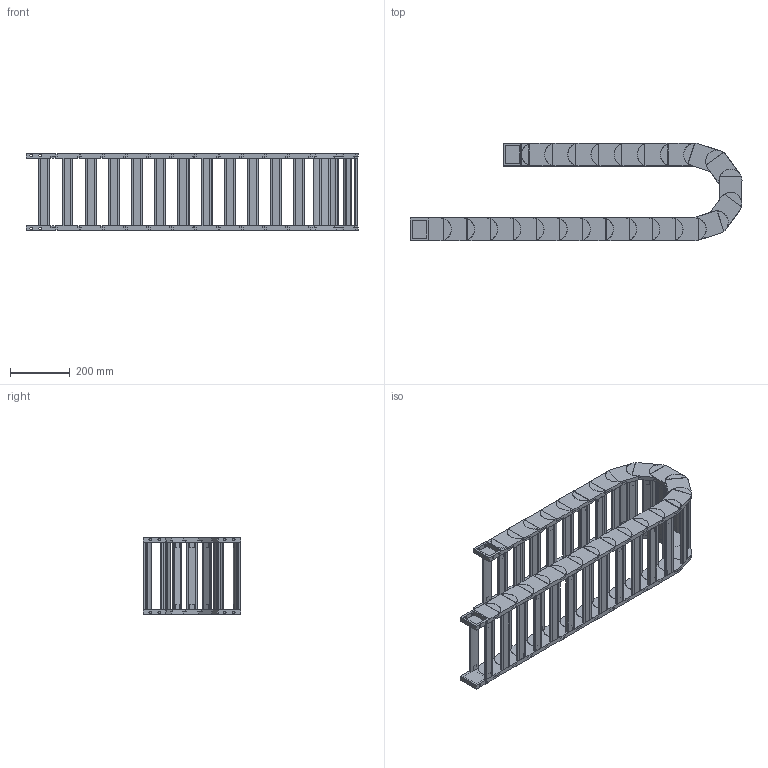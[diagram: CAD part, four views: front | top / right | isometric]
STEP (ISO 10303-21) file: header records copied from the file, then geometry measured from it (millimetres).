
FILE_DESCRIPTION((''),'2;1');
FILE_NAME('HD55-R125-ZPT_ASM','2022-06-17T18:57:36',('admin'),(''),'CREO PARAMETRIC BY PTC INC, 2021164','CREO PARAMETRIC BY PTC INC, 2021164','');
FILE_SCHEMA(('CONFIG_CONTROL_DESIGN','GEOMETRIC_VALIDATION_PROPERTIES_MIM'));
Length unit declared in the file: millimetre
Products named in the file (6): HD-55; 55-500001; HD55_ASM; H55-T1; H55-T2; HD55-R125-ZPT_ASM
Assembly tree (29 placements, depth 3):
  HD55-R125-ZPT_ASM
    HD55_ASM  x23
      HD-55
      55-500001
    H55-T1
    H55-T2
    55-500001  x2
Bounding box: 1110.7 x 325.99 x 257.7 mm (x, y, z)
Volume: 7760943.4 mm3; surface area: 2362822.7 mm2
Topology: 100 solids, 100 shells, 1662 faces, 4266 edges, 2908 vertices
Faces by surface type: plane 1370, cylinder 292
Entity records: 8771 total; most frequent: CARTESIAN_POINT 1294, DIRECTION 1256, ORIENTED_EDGE 1172, EDGE_CURVE 586, AXIS2_PLACEMENT_3D 419, VECTOR 418, LINE 418, VERTEX_POINT 396
